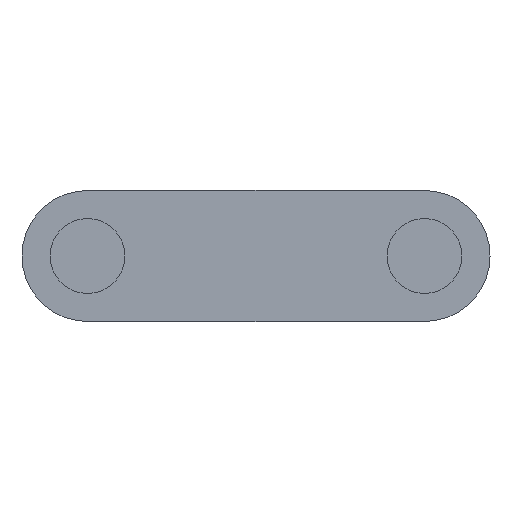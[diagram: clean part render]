
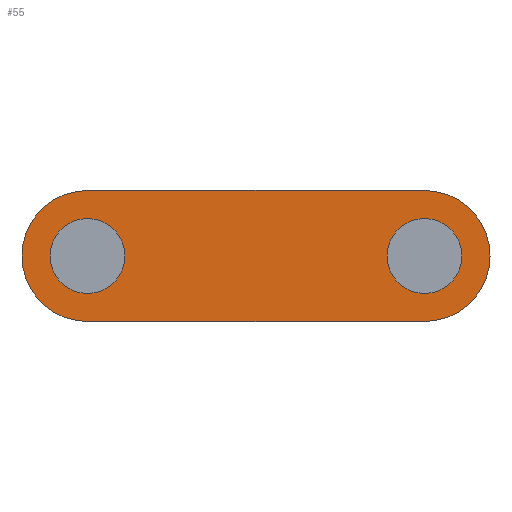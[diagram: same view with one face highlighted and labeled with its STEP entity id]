
A CAD part, left-side view. The second image highlights one B-rep face of the part: STEP entity #55.
In plain terms, the highlighted planar face has unit normal (-1, 0, 0).
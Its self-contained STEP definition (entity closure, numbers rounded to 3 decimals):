
#55=ADVANCED_FACE('',(#83,#85,#87),#89,.F.);
#83=FACE_BOUND('',#84,.T.);
#84=EDGE_LOOP('',(#161,#162,#163,#164));
#85=FACE_BOUND('',#86,.T.);
#86=EDGE_LOOP('',(#165));
#87=FACE_BOUND('',#88,.T.);
#88=EDGE_LOOP('',(#166));
#89=PLANE('',#90);
#90=AXIS2_PLACEMENT_3D('',#91,#92,#93);
#91=CARTESIAN_POINT('',(150.,0.,0.));
#92=DIRECTION('',(1.,0.,0.));
#93=DIRECTION('',(0.,1.,0.));
#161=ORIENTED_EDGE('',*,*,#201,.F.);
#162=ORIENTED_EDGE('',*,*,#202,.F.);
#163=ORIENTED_EDGE('',*,*,#203,.F.);
#164=ORIENTED_EDGE('',*,*,#204,.F.);
#165=ORIENTED_EDGE('',*,*,#199,.T.);
#166=ORIENTED_EDGE('',*,*,#197,.T.);
#197=EDGE_CURVE('',#217,#217,#218,.T.);
#199=EDGE_CURVE('',#221,#221,#222,.T.);
#201=EDGE_CURVE('',#225,#226,#227,.T.);
#202=EDGE_CURVE('',#228,#225,#229,.T.);
#203=EDGE_CURVE('',#230,#228,#231,.T.);
#204=EDGE_CURVE('',#226,#230,#232,.T.);
#217=VERTEX_POINT('',#251);
#218=CIRCLE('',#252,20.);
#221=VERTEX_POINT('',#261);
#222=CIRCLE('',#262,20.);
#225=VERTEX_POINT('',#271);
#226=VERTEX_POINT('',#272);
#227=LINE('',#273,#274);
#228=VERTEX_POINT('',#276);
#229=CIRCLE('',#277,35.);
#230=VERTEX_POINT('',#281);
#231=LINE('',#282,#283);
#232=CIRCLE('',#285,35.);
#251=CARTESIAN_POINT('',(150.,70.,-50.));
#252=AXIS2_PLACEMENT_3D('',#253,#254,#255);
#253=CARTESIAN_POINT('',(150.,90.,-50.));
#254=DIRECTION('',(1.,0.,0.));
#255=DIRECTION('',(0.,-1.,0.));
#261=CARTESIAN_POINT('',(150.,-110.,-50.));
#262=AXIS2_PLACEMENT_3D('',#263,#264,#265);
#263=CARTESIAN_POINT('',(150.,-90.,-50.));
#264=DIRECTION('',(1.,0.,0.));
#265=DIRECTION('',(0.,-1.,0.));
#271=CARTESIAN_POINT('',(150.,-90.,-85.));
#272=CARTESIAN_POINT('',(150.,90.,-85.));
#273=CARTESIAN_POINT('',(150.,-90.,-85.));
#274=VECTOR('',#275,1.);
#275=DIRECTION('',(0.,1.,0.));
#276=CARTESIAN_POINT('',(150.,-90.,-15.));
#277=AXIS2_PLACEMENT_3D('',#278,#279,#280);
#278=CARTESIAN_POINT('',(150.,-90.,-50.));
#279=DIRECTION('',(1.,0.,0.));
#280=DIRECTION('',(0.,0.,1.));
#281=CARTESIAN_POINT('',(150.,90.,-15.));
#282=CARTESIAN_POINT('',(150.,90.,-15.));
#283=VECTOR('',#284,1.);
#284=DIRECTION('',(0.,-1.,0.));
#285=AXIS2_PLACEMENT_3D('',#286,#287,#288);
#286=CARTESIAN_POINT('',(150.,90.,-50.));
#287=DIRECTION('',(1.,0.,0.));
#288=DIRECTION('',(0.,0.,-1.));
